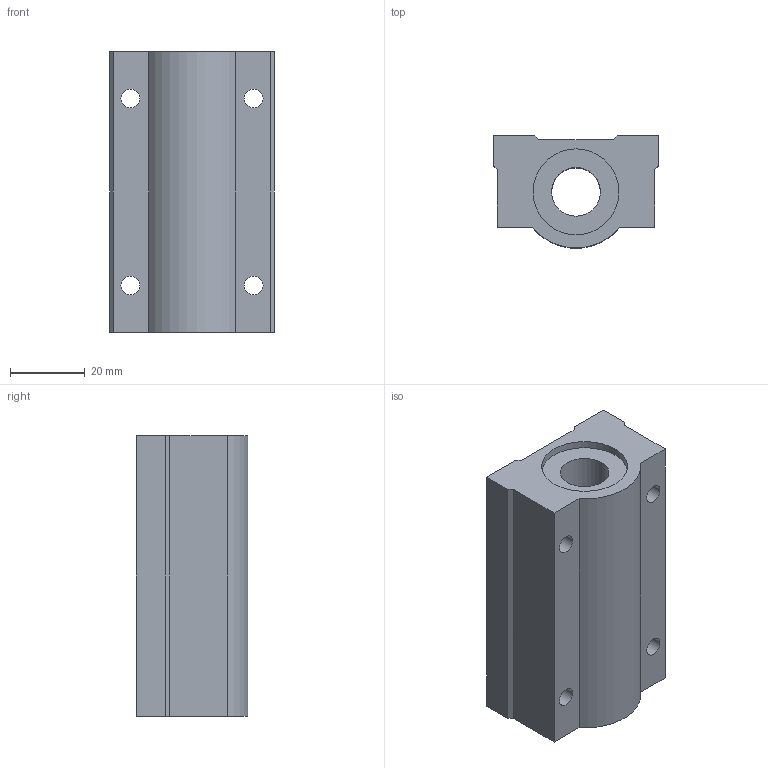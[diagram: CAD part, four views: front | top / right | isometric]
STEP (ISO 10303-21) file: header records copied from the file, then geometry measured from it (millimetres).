
FILE_DESCRIPTION((''),'2;1');
FILE_NAME('C:\Documents and Settings\ｿﾀﾀ蠑ｷ1\ｹﾙﾅﾁ ﾈｭｸ饅\ｺﾎﾇｰﾆﾄﾀﾏ\ﾁｦﾇｰ\SC__WUUN\SC13WUUN.stp','2005-06-22T11:01:17',('ｿﾀﾀ蠑ｷ1'),(''),'Autodesk Inventor 9','Autodesk Inventor 9','');
FILE_SCHEMA(('AUTOMOTIVE_DESIGN { 1 0 10303 214 1 1 1 1 }'));
Length unit declared in the file: millimetre
Products named in the file (1): SC__UUN
Bounding box: 44 x 29.95 x 75 mm (x, y, z)
Volume: 70527.7 mm3; surface area: 17032.2 mm2
Topology: 1 solids, 1 shells, 32 faces, 84 edges, 56 vertices
Faces by surface type: plane 17, bspline 8, cylinder 7
Entity records: 1145 total; most frequent: CARTESIAN_POINT 309, ORIENTED_EDGE 168, DIRECTION 164, EDGE_CURVE 84, VERTEX_POINT 56, AXIS2_PLACEMENT_3D 55, VECTOR 54, LINE 54
